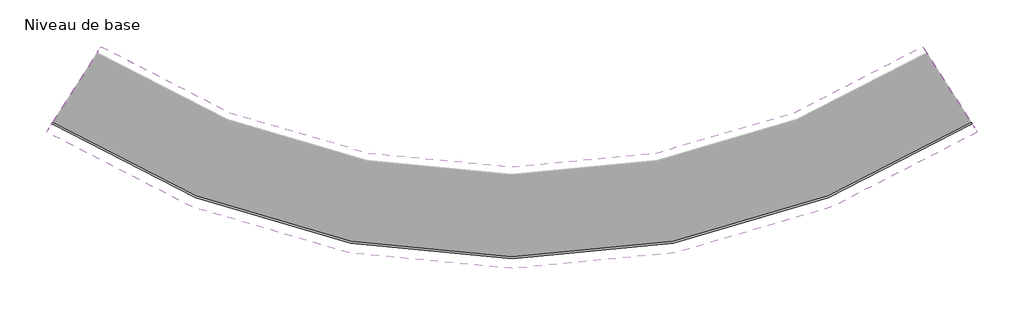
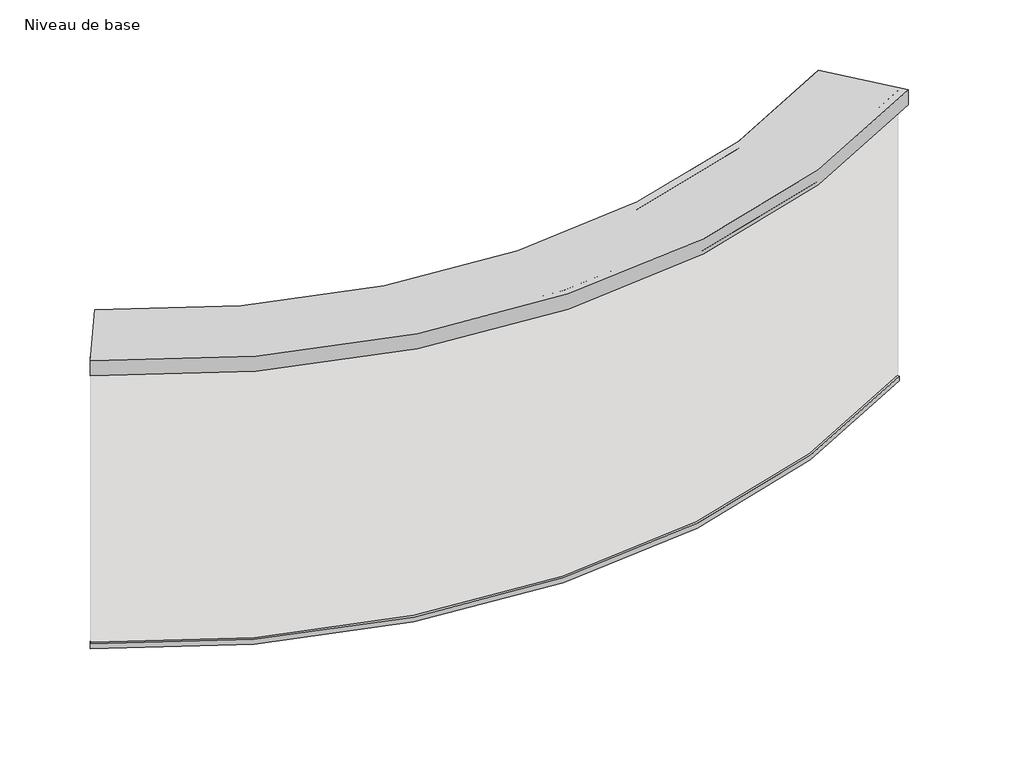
# One storey, part 13 of 13: 2 proxies.
"""IFC4 building model written with IfcOpenShell, lengths in millimetres."""

from ifc_helpers import new_model, si_unit, frame, origin, place, context, project, spatial, polyline, circle_curve, element, save
from ifc_brep_helpers import plane_surface, cylinder_surface, revolved_surface, advanced_brep

model = new_model("IFC4")

# Units and contexts
model_context = context("Model", 3, world=origin())
ifc_project = project(units=[si_unit("LENGTHUNIT", "METRE", prefix="MILLI")], contexts=[model_context])

# Site, building, storey
site = spatial("IfcSite", under=ifc_project)
building = spatial("IfcBuilding", under=site)
storey = spatial("IfcBuildingStorey", under=building, Name="Niveau de base", Elevation=0.0)

# Proxies
placement = place(None, origin())
element("IfcBuildingElementProxy", 1, Name="Wall Sweeps", at=placement, inside=storey, context=model_context, shape_type="AdvancedBrep", body=[
    advanced_brep(
    [(32393.2322791, 45015.9770202, 1980.4303772), (32393.2322791, 45015.9770202, 2084.3696738), (32701.4871581, 45497.3774154, 2034.2673856), (32701.4871581, 45497.3774154, 1985.4349362), (32707.048831, 45506.0630574, 1975.1212277), (32706.6675233, 45505.4675707, 1974.4141209), (32700.9479076, 45496.53527, 1985.0207227), (32700.9479076, 45496.53527, 2033.3383964), (32684.2927043, 45470.5249066, 2036.0405569), (32684.2927043, 45470.5249066, 2000.0), (32429.7664482, 45073.032284, 2000.0), (32418.9814374, 45056.1893763, 2000.0), (32418.9814374, 45056.1893763, 2079.176115), (32393.7701808, 45016.8170591, 2083.2664199), (32393.6477292, 45016.6258269, 1981.2007984), (32400.6045562, 45027.4902755, 1994.1017164), (32400.9858639, 45028.0857622, 1993.3946096), (32393.9948946, 45017.1679937, 1980.4303772), (37720.8268734, 45015.9770202, 1980.4303772), (37720.064258, 45017.1679937, 1980.4303772), (37713.0732886, 45028.0857622, 1993.3946096), (37713.4545963, 45027.4902755, 1994.1017164), (37720.4114234, 45016.6258269, 1981.2007984), (37720.2889718, 45016.8170591, 2083.2664199), (37695.0777152, 45056.1893763, 2079.176115), (37695.0777152, 45056.1893763, 2000.0), (37684.2927043, 45073.032284, 2000.0), (37429.7664482, 45470.5249066, 2000.0), (37429.7664482, 45470.5249066, 2036.0405569), (37413.111245, 45496.53527, 2033.3383964), (37413.111245, 45496.53527, 1985.0207227), (37407.3916292, 45505.4675707, 1974.4141209), (37407.0103215, 45506.0630574, 1975.1212277), (37412.5719944, 45497.3774154, 1985.4349362), (37412.5719944, 45497.3774154, 2034.2673856), (37720.8268734, 45015.9770202, 2084.3696738)],
    [
        (0, 1),
        (1, 2),
        (2, 3),
        (3, 4),
        (4, 5),
        (5, 6),
        (6, 7),
        (7, 8),
        (8, 9),
        (9, 10),
        (10, 11),
        (11, 12),
        (12, 13),
        (13, 14),
        (14, 15),
        (15, 16),
        (16, 17),
        (17, 0),
        (18, 19),
        (19, 20),
        (20, 21),
        (21, 22),
        (22, 23),
        (23, 24),
        (24, 25),
        (25, 26),
        (26, 27),
        (27, 28),
        (28, 29),
        (29, 30),
        (30, 31),
        (31, 32),
        (32, 33),
        (33, 34),
        (34, 35),
        (35, 18),
        (35, 1, circle_curve(frame((35057.0295763, 49176.0184624, 2084.3696738), z_axis=(0.0, 0.0, -1.0), x_axis=(-0.5392505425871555, -0.8421453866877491, 0.0)), 4939.8138468)),
        (0, 18, circle_curve(frame((35057.0295763, 49176.0184624, 1980.4303772), z_axis=(0.0, 0.0, 1.0), x_axis=(-0.5392505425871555, -0.8421453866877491, 0.0)), 4939.8138468)),
        (34, 2, circle_curve(frame((35057.0295763, 49176.0184624, 2034.2673856), z_axis=(0.0, 0.0, -1.0), x_axis=(-0.5392505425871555, -0.8421453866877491, 0.0)), 4368.1781141)),
        (33, 3, circle_curve(frame((35057.0295763, 49176.0184624, 1985.4349362), z_axis=(0.0, 0.0, -1.0), x_axis=(-0.5392505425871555, -0.8421453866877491, 0.0)), 4368.1781141)),
        (32, 4, circle_curve(frame((35057.0295763, 49176.0184624, 1975.1212277), z_axis=(0.0, 0.0, -1.0), x_axis=(-0.5392505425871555, -0.8421453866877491, 0.0)), 4357.8644056)),
        (31, 5, circle_curve(frame((35057.0295763, 49176.0184624, 1974.4141209), z_axis=(0.0, 0.0, -1.0), x_axis=(-0.5392505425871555, -0.8421453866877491, 0.0)), 4358.5715124)),
        (30, 6, circle_curve(frame((35057.0295763, 49176.0184624, 1985.0207227), z_axis=(0.0, 0.0, -1.0), x_axis=(-0.5392505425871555, -0.8421453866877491, 0.0)), 4369.1781141)),
        (29, 7, circle_curve(frame((35057.0295763, 49176.0184624, 2033.3383964), z_axis=(0.0, 0.0, -1.0), x_axis=(-0.5392505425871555, -0.8421453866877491, 0.0)), 4369.1781141)),
        (28, 8, circle_curve(frame((35057.0295763, 49176.0184624, 2036.0405569), z_axis=(0.0, 0.0, -1.0), x_axis=(-0.5392505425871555, -0.8421453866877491, 0.0)), 4400.0639491)),
        (27, 9, circle_curve(frame((35057.0295763, 49176.0184624, 2000.0), z_axis=(0.0, 0.0, -1.0), x_axis=(-0.5392505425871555, -0.8421453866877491, 0.0)), 4400.0639491)),
        (25, 11, circle_curve(frame((35057.0295763, 49176.0184624, 2000.0), z_axis=(0.0, 0.0, -1.0), x_axis=(-0.5392505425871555, -0.8421453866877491, 0.0)), 4892.0639491)),
        (24, 12, circle_curve(frame((35057.0295763, 49176.0184624, 2079.176115), z_axis=(0.0, 0.0, -1.0), x_axis=(-0.5392505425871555, -0.8421453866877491, 0.0)), 4892.0639491)),
        (23, 13, circle_curve(frame((35057.0295763, 49176.0184624, 2083.2664199), z_axis=(0.0, 0.0, -1.0), x_axis=(-0.5392505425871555, -0.8421453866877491, 0.0)), 4938.8163482)),
        (22, 14, circle_curve(frame((35057.0295763, 49176.0184624, 1981.2007984), z_axis=(0.0, 0.0, -1.0), x_axis=(-0.5392505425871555, -0.8421453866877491, 0.0)), 4939.0434255)),
        (21, 15, circle_curve(frame((35057.0295763, 49176.0184624, 1994.1017164), z_axis=(0.0, 0.0, -1.0), x_axis=(-0.5392505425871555, -0.8421453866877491, 0.0)), 4926.1425076)),
        (20, 16, circle_curve(frame((35057.0295763, 49176.0184624, 1993.3946096), z_axis=(0.0, 0.0, -1.0), x_axis=(-0.5392505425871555, -0.8421453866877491, 0.0)), 4925.4354008)),
        (19, 17, circle_curve(frame((35057.0295763, 49176.0184624, 1980.4303772), z_axis=(0.0, 0.0, -1.0), x_axis=(-0.5392505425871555, -0.8421453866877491, 0.0)), 4938.3996332)),
    ],
    [
        plane_surface(frame((35057.0295763, 49176.0184624, 2000.0), z_axis=(-0.8421453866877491, 0.5392505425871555, 0.0), x_axis=(-0.5392505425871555, -0.8421453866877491, 0.0))),
        plane_surface(frame((35057.0295763, 49176.0184624, 2000.0), z_axis=(0.8421453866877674, 0.539250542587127, 0.0), x_axis=(0.539250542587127, -0.8421453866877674, 0.0))),
        cylinder_surface(frame((35057.0295763, 49176.0184624, 2000.0), z_axis=(0.0, 0.0, 1.0), x_axis=(-0.5392505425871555, -0.8421453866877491, 0.0)), 4939.8138468),
        revolved_surface(polyline([(32393.2322791, 45015.9770202, 2084.3696738), (32701.4871581, 45497.3774154, 2034.2673856)]), (35057.0295763, 49176.0184624, 2000.0), (0.0, 0.0, 1.0)),
        revolved_surface(polyline([(32701.48715815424, 45497.377415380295, 2034.2673856), (32701.48715815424, 45497.377415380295, 1985.4349362)]), (35057.0295763, 49176.0184624, 2000.0), (0.0, 0.0, 1.0)),
        revolved_surface(polyline([(32701.4871581, 45497.3774154, 1985.4349362), (32707.048831, 45506.0630574, 1975.1212277)]), (35057.0295763, 49176.0184624, 2000.0), (0.0, 0.0, 1.0)),
        revolved_surface(polyline([(32707.048831, 45506.0630574, 1975.1212277), (32706.6675233, 45505.4675707, 1974.4141209)]), (35057.0295763, 49176.0184624, 2000.0), (0.0, 0.0, 1.0)),
        revolved_surface(polyline([(32706.6675233, 45505.4675707, 1974.4141209), (32700.9479076, 45496.53527, 1985.0207227)]), (35057.0295763, 49176.0184624, 2000.0), (0.0, 0.0, 1.0)),
        cylinder_surface(frame((35057.0295763, 49176.0184624, 2000.0), z_axis=(0.0, 0.0, 1.0), x_axis=(-0.5392505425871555, -0.8421453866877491, 0.0)), 4369.1781141),
        revolved_surface(polyline([(32700.9479076, 45496.53527, 2033.3383964), (32684.2927043, 45470.5249066, 2036.0405569)]), (35057.0295763, 49176.0184624, 2000.0), (0.0, 0.0, 1.0)),
        revolved_surface(polyline([(32684.292704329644, 45470.52490653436, 2036.0405569), (32684.292704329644, 45470.52490653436, 2000.0)]), (35057.0295763, 49176.0184624, 2000.0), (0.0, 0.0, 1.0)),
        plane_surface(frame((35057.0295763, 49176.0184624, 2000.0), z_axis=(0.0, 0.0, -1.0), x_axis=(-0.5392505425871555, -0.8421453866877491, 0.0))),
        cylinder_surface(frame((35057.0295763, 49176.0184624, 2000.0), z_axis=(0.0, 0.0, 1.0), x_axis=(-0.5392505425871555, -0.8421453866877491, 0.0)), 4892.0639491),
        revolved_surface(polyline([(32418.9814374, 45056.1893763, 2079.176115), (32393.7701808, 45016.8170591, 2083.2664199)]), (35057.0295763, 49176.0184624, 2000.0), (0.0, 0.0, 1.0)),
        revolved_surface(polyline([(32393.7701808, 45016.8170591, 2083.2664199), (32393.6477292, 45016.6258269, 1981.2007984)]), (35057.0295763, 49176.0184624, 2000.0), (0.0, 0.0, 1.0)),
        revolved_surface(polyline([(32393.6477292, 45016.6258269, 1981.2007984), (32400.6045562, 45027.4902755, 1994.1017164)]), (35057.0295763, 49176.0184624, 2000.0), (0.0, 0.0, 1.0)),
        revolved_surface(polyline([(32400.6045562, 45027.4902755, 1994.1017164), (32400.9858639, 45028.0857622, 1993.3946096)]), (35057.0295763, 49176.0184624, 2000.0), (0.0, 0.0, 1.0)),
        revolved_surface(polyline([(32400.9858639, 45028.0857622, 1993.3946096), (32393.9948946, 45017.1679937, 1980.4303772)]), (35057.0295763, 49176.0184624, 2000.0), (0.0, 0.0, 1.0)),
        plane_surface(frame((35057.0295763, 49176.0184624, 1980.4303772), z_axis=(0.0, 0.0, -1.0), x_axis=(-0.5392505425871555, -0.8421453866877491, 0.0))),
    ],
    [
        (0, [[1, 2, 3, 4, 5, 6, 7, 8, 9, 10, 11, 12, 13, 14, 15, 16, 17, 18]]),
        (1, [[19, 20, 21, 22, 23, 24, 25, 26, 27, 28, 29, 30, 31, 32, 33, 34, 35, 36]]),
        (2, [[37, -1, 38, -36]]),
        (3, [[39, -2, -37, -35]]),
        (4, [[40, -3, -39, -34]]),
        (5, [[41, -4, -40, -33]]),
        (6, [[42, -5, -41, -32]]),
        (7, [[43, -6, -42, -31]]),
        (8, [[44, -7, -43, -30]]),
        (9, [[45, -8, -44, -29]]),
        (10, [[46, -9, -45, -28]]),
        (11, [[47, -11, -10, -46, -27, -26]]),
        (12, [[48, -12, -47, -25]]),
        (13, [[49, -13, -48, -24]]),
        (14, [[50, -14, -49, -23]]),
        (15, [[51, -15, -50, -22]]),
        (16, [[52, -16, -51, -21]]),
        (17, [[53, -17, -52, -20]]),
        (18, [[-38, -18, -53, -19]]),
    ],
),
])
element("IfcBuildingElementProxy", 2, Name="Wall Sweeps", at=placement, inside=storey, context=model_context, shape_type="AdvancedBrep", body=[
    advanced_brep(
    [(32451.3364699, 45106.7180995, 130.0), (32451.8757205, 45107.5602449, 130.0), (32451.8757205, 45107.5602449, 100.0), (32451.8757205, 45107.5602449, 99.4012185), (32424.3739428, 45064.6108302, 94.9392966), (32424.3739428, 45064.6108302, 62.75208), (32423.8346923, 45063.7686848, 62.75208), (32423.8346923, 45063.7686848, 95.5380782), (32451.3364699, 45106.7180995, 100.0), (37662.7226826, 45106.7180995, 130.0), (37662.7226826, 45106.7180995, 100.0), (37690.2244603, 45063.7686848, 95.5380782), (37690.2244603, 45063.7686848, 62.75208), (37689.6852098, 45064.6108302, 62.75208), (37689.6852098, 45064.6108302, 94.9392966), (37662.1834321, 45107.5602449, 99.4012185), (37662.1834321, 45107.5602449, 100.0), (37662.1834321, 45107.5602449, 130.0)],
    [
        (0, 1),
        (1, 2),
        (2, 3),
        (3, 4),
        (4, 5),
        (5, 6),
        (6, 7),
        (7, 8),
        (8, 0),
        (9, 10),
        (10, 11),
        (11, 12),
        (12, 13),
        (13, 14),
        (14, 15),
        (15, 16),
        (16, 17),
        (17, 9),
        (17, 1, circle_curve(frame((35057.0295763, 49176.0184624, 130.0), z_axis=(0.0, 0.0, -1.0), x_axis=(-0.5392505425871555, -0.8421453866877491, 0.0)), 4831.0639491)),
        (0, 9, circle_curve(frame((35057.0295763, 49176.0184624, 130.0), z_axis=(0.0, 0.0, 1.0), x_axis=(-0.5392505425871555, -0.8421453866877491, 0.0)), 4832.0639491)),
        (15, 3, circle_curve(frame((35057.0295763, 49176.0184624, 99.4012185), z_axis=(0.0, 0.0, -1.0), x_axis=(-0.5392505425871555, -0.8421453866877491, 0.0)), 4831.0639491)),
        (14, 4, circle_curve(frame((35057.0295763, 49176.0184624, 94.9392966), z_axis=(0.0, 0.0, -1.0), x_axis=(-0.5392505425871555, -0.8421453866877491, 0.0)), 4882.0639491)),
        (13, 5, circle_curve(frame((35057.0295763, 49176.0184624, 62.75208), z_axis=(0.0, 0.0, -1.0), x_axis=(-0.5392505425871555, -0.8421453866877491, 0.0)), 4882.0639491)),
        (12, 6, circle_curve(frame((35057.0295763, 49176.0184624, 62.75208), z_axis=(0.0, 0.0, -1.0), x_axis=(-0.5392505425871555, -0.8421453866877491, 0.0)), 4883.0639491)),
        (11, 7, circle_curve(frame((35057.0295763, 49176.0184624, 95.5380782), z_axis=(0.0, 0.0, -1.0), x_axis=(-0.5392505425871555, -0.8421453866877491, 0.0)), 4883.0639491)),
        (10, 8, circle_curve(frame((35057.0295763, 49176.0184624, 100.0), z_axis=(0.0, 0.0, -1.0), x_axis=(-0.5392505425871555, -0.8421453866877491, 0.0)), 4832.0639491)),
    ],
    [
        plane_surface(frame((35057.0295763, 49176.0184624, 100.0), z_axis=(-0.8421453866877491, 0.5392505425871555, 0.0), x_axis=(-0.5392505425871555, -0.8421453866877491, 0.0))),
        plane_surface(frame((35057.0295763, 49176.0184624, 100.0), z_axis=(0.8421453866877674, 0.539250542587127, 0.0), x_axis=(0.539250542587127, -0.8421453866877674, 0.0))),
        plane_surface(frame((35057.0295763, 49176.0184624, 130.0), z_axis=(0.0, 0.0, 1.0), x_axis=(-0.5392505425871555, -0.8421453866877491, 0.0))),
        revolved_surface(polyline([(32451.87572047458, 45107.56024487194, 130.0), (32451.87572047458, 45107.56024487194, 99.4012185)]), (35057.0295763, 49176.0184624, 100.0), (0.0, 0.0, 1.0)),
        revolved_surface(polyline([(32451.8757205, 45107.5602449, 99.4012185), (32424.3739428, 45064.6108302, 94.9392966)]), (35057.0295763, 49176.0184624, 100.0), (0.0, 0.0, 1.0)),
        revolved_surface(polyline([(32424.37394280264, 45064.610830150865, 94.9392966), (32424.37394280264, 45064.610830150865, 62.75208)]), (35057.0295763, 49176.0184624, 100.0), (0.0, 0.0, 1.0)),
        plane_surface(frame((35057.0295763, 49176.0184624, 62.75208), z_axis=(0.0, 0.0, -1.0), x_axis=(-0.5392505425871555, -0.8421453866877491, 0.0))),
        cylinder_surface(frame((35057.0295763, 49176.0184624, 100.0), z_axis=(0.0, 0.0, 1.0), x_axis=(-0.5392505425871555, -0.8421453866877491, 0.0)), 4883.0639491),
        revolved_surface(polyline([(32423.8346923, 45063.7686848, 95.5380782), (32451.3364699, 45106.7180995, 100.0)]), (35057.0295763, 49176.0184624, 100.0), (0.0, 0.0, 1.0)),
        cylinder_surface(frame((35057.0295763, 49176.0184624, 100.0), z_axis=(0.0, 0.0, 1.0), x_axis=(-0.5392505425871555, -0.8421453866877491, 0.0)), 4832.0639491),
    ],
    [
        (0, [[1, 2, 3, 4, 5, 6, 7, 8, 9]]),
        (1, [[10, 11, 12, 13, 14, 15, 16, 17, 18]]),
        (2, [[19, -1, 20, -18]]),
        (3, [[21, -3, -2, -19, -17, -16]]),
        (4, [[22, -4, -21, -15]]),
        (5, [[23, -5, -22, -14]]),
        (6, [[24, -6, -23, -13]]),
        (7, [[25, -7, -24, -12]]),
        (8, [[26, -8, -25, -11]]),
        (9, [[-20, -9, -26, -10]]),
    ],
),
])

save(model, "model.ifc")
